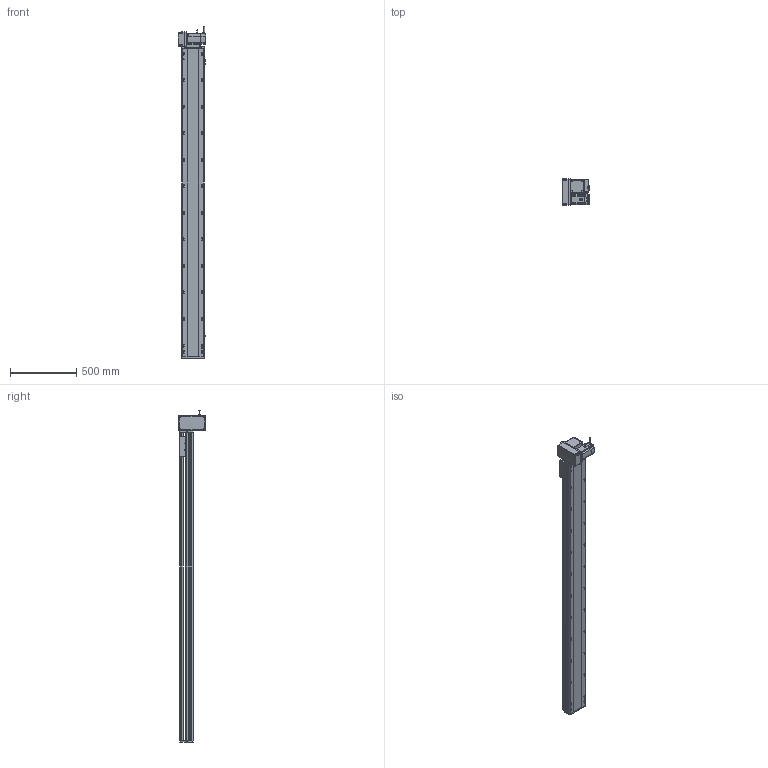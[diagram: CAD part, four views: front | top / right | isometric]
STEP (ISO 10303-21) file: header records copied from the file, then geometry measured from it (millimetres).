
FILE_DESCRIPTION (( 'STEP AP214' ), '1' );
FILE_NAME ('RTB17S-XX-2050-LM-M75-C4.STEP', '2025-12-12T00:44:29', ( '' ), ( '' ), 'SwSTEP 2.0', 'SolidWorks 2018', '' );
FILE_SCHEMA (( 'AUTOMOTIVE_DESIGN' ));
Length unit declared in the file: millimetre
Products named in the file (15): RTB22S-GY-018P^RTB17S-LM-々湍釱蚾饜-750W_RTB17S-XX-XX-LM-M75-C4; RTB22S-GY-008-M75--萇儂啣^RTB17S-LM-々湍釱蚾饜-750W_RTB17S-XX-XX-LM-M75-C4; RTH13-BL-012覜茼え俋离^RTB17S-賑釱_RTB17S-XX-XX-LM-M75-C4; 750W萇儂^RTB17S-XX-XX-LM-M75-C4; RTB22S-GY-017P^RTB17S-LM-々湍釱蚾饜-750W_RTB17S-XX-XX-LM-M75-C4; RTB22S-GY-005P^RTB17S-LM-々湍釱蚾饜-750W_RTB17S-XX-XX-LM-M75-C4; RTB17S-L-007奻裔^RTB17S-XX-XX-LM-M75-C4; RTB17S-L-004-賑釱^RTB17S-賑釱_RTB17S-XX-XX-LM-M75-C4; RTB17S-L-014-T20-P75--々湍釱^RTB17S-LM-々湍釱蚾饜-750W_RTB17S-XX-XX-LM-M75-C4; RTB17S-L-001-耜醱啣^RTB17S-XX-XX-LM-M75-C4; RTB17S-賑釱^RTB17S-XX-XX-LM-M75-C4; RTB17-R-011菁釱^RTB17S-XX-XX-LM-M75-C4; RTB17S-XX-2050-LM-M75-C4; EE672^RTB17S-XX-XX-LM-M75-C4; RTB17S-LM-々湍釱蚾饜-750W^RTB17S-XX-XX-LM-M75-C4
Assembly tree (17 placements, depth 3):
  RTB17S-XX-2050-LM-M75-C4
    RTB17-R-011菁釱^RTB17S-XX-XX-LM-M75-C4
    EE672^RTB17S-XX-XX-LM-M75-C4  x3
    RTB17S-L-001-耜醱啣^RTB17S-XX-XX-LM-M75-C4
    RTB17S-賑釱^RTB17S-XX-XX-LM-M75-C4
      RTB17S-L-004-賑釱^RTB17S-賑釱_RTB17S-XX-XX-LM-M75-C4
      RTH13-BL-012覜茼え俋离^RTB17S-賑釱_RTB17S-XX-XX-LM-M75-C4
    RTB17S-L-007奻裔^RTB17S-XX-XX-LM-M75-C4
    750W萇儂^RTB17S-XX-XX-LM-M75-C4
    RTB17S-LM-々湍釱蚾饜-750W^RTB17S-XX-XX-LM-M75-C4
      RTB17S-L-014-T20-P75--々湍釱^RTB17S-LM-々湍釱蚾饜-750W_RTB17S-XX-XX-LM-M75-C4
      RTB22S-GY-005P^RTB17S-LM-々湍釱蚾饜-750W_RTB17S-XX-XX-LM-M75-C4
      RTB22S-GY-017P^RTB17S-LM-々湍釱蚾饜-750W_RTB17S-XX-XX-LM-M75-C4  x2
      RTB22S-GY-008-M75--萇儂啣^RTB17S-LM-々湍釱蚾饜-750W_RTB17S-XX-XX-LM-M75-C4
      RTB22S-GY-018P^RTB17S-LM-々湍釱蚾饜-750W_RTB17S-XX-XX-LM-M75-C4
Bounding box: 210.4 x 200 x 2502.2 mm (x, y, z)
Volume: 18759613.6 mm3; surface area: 3362463.4 mm2
Topology: 17 solids, 17 shells, 2185 faces, 6106 edges, 3950 vertices
Faces by surface type: plane 982, cylinder 787, bspline 294, cone 110, sphere 8, torus 4
Entity records: 62710 total; most frequent: CARTESIAN_POINT 18570, ORIENTED_EDGE 9056, DIRECTION 8402, EDGE_CURVE 4528, AXIS2_PLACEMENT_3D 2970, VERTEX_POINT 2954, LINE 2462, VECTOR 2462
